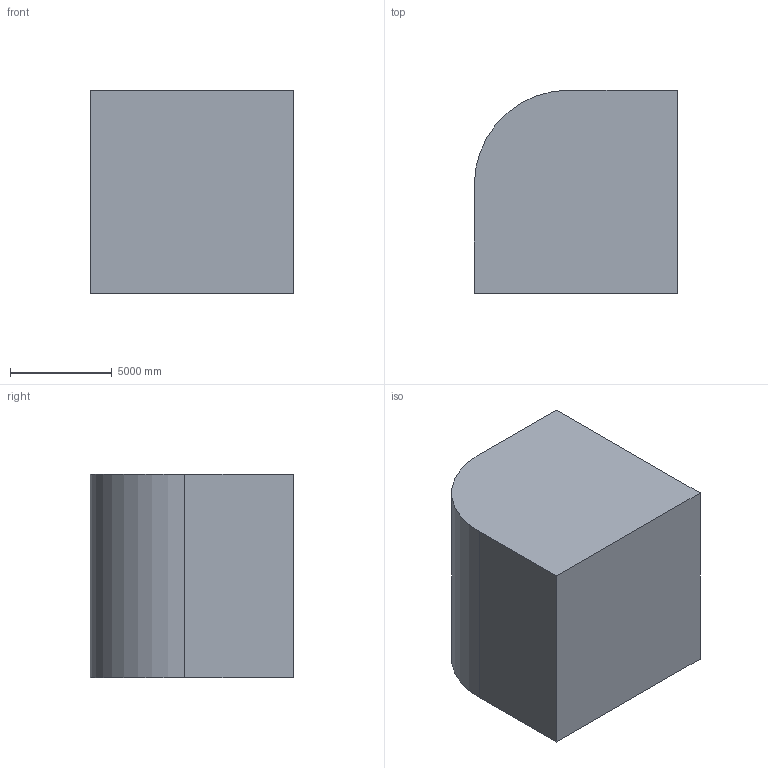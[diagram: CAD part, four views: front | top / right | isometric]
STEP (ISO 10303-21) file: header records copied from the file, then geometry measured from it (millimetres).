
FILE_DESCRIPTION (( 'STEP AP203' ), '1' );
FILE_NAME ('201.STEP', '2022-09-07T12:16:19', ( 'user' ), ( '' ), 'SwSTEP 2.0', 'SolidWorks 2021', '' );
FILE_SCHEMA (( 'CONFIG_CONTROL_DESIGN' ));
Length unit declared in the file: centimetre
Products named in the file (1): 201
Bounding box: 10000 x 10000 x 10000 mm (x, y, z)
Volume: 946969080595.4 mm3; surface area: 620295704.4 mm2
Topology: 1 solids, 1 shells, 13 faces, 27 edges, 18 vertices
Faces by surface type: plane 8, cylinder 5
Entity records: 428 total; most frequent: DIRECTION 65, CARTESIAN_POINT 59, ORIENTED_EDGE 54, EDGE_CURVE 27, AXIS2_PLACEMENT_3D 24, VERTEX_POINT 18, LINE 17, VECTOR 17
